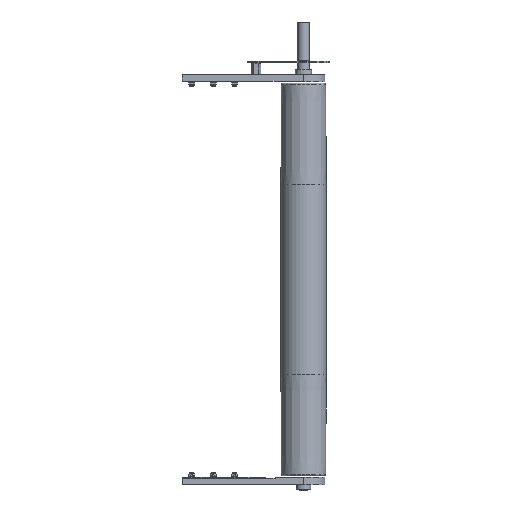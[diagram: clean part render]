
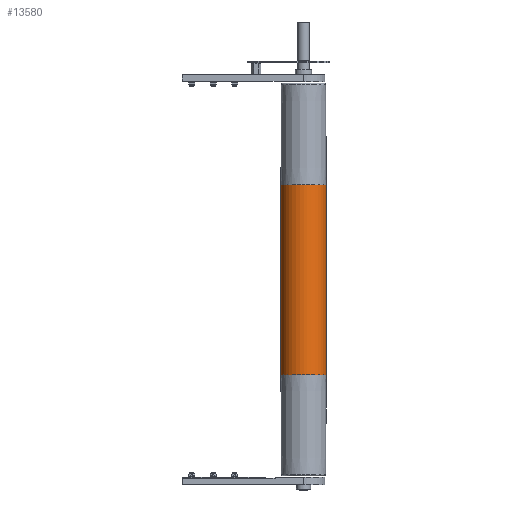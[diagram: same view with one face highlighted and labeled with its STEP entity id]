
A CAD part, front view. The second image highlights one B-rep face of the part: STEP entity #13580.
In plain terms, the highlighted cylindrical face has radius 47.5 mm (diameter 95 mm), a partial arc.
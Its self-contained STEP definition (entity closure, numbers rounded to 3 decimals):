
#430 = CIRCLE ( 'NONE', #6395, 47.5 ) ;
#432 = CIRCLE ( 'NONE', #6394, 47.5 ) ;
#442 = VECTOR ( 'NONE', #7727, 1000. ) ;
#447 = VECTOR ( 'NONE', #7752, 1000. ) ;
#449 = LINE ( 'NONE', #7733, #442 ) ;
#456 = LINE ( 'NONE', #7744, #447 ) ;
#4607 = CYLINDRICAL_SURFACE ( 'NONE', #6884, 47.5 ) ;
#4614 = FACE_OUTER_BOUND ( 'NONE', #15465, .T. ) ;
#6394 = AXIS2_PLACEMENT_3D ( 'NONE', #7687, #7686, #7684 ) ;
#6395 = AXIS2_PLACEMENT_3D ( 'NONE', #7674, #7672, #7670 ) ;
#6568 = CARTESIAN_POINT ( 'NONE',  ( -47.5, 0., 200. ) ) ;
#6884 = AXIS2_PLACEMENT_3D ( 'NONE', #11943, #11944, #11948 ) ;
#7670 = DIRECTION ( 'NONE',  ( 1., 0., 0. ) ) ;
#7672 = DIRECTION ( 'NONE',  ( 0., 0., 1. ) ) ;
#7674 = CARTESIAN_POINT ( 'NONE',  ( 0., 0., -200. ) ) ;
#7684 = DIRECTION ( 'NONE',  ( 1., 0., 0. ) ) ;
#7686 = DIRECTION ( 'NONE',  ( 0., 0., 1. ) ) ;
#7687 = CARTESIAN_POINT ( 'NONE',  ( 0., 0., 200. ) ) ;
#7727 = DIRECTION ( 'NONE',  ( 0., 0., -1. ) ) ;
#7733 = CARTESIAN_POINT ( 'NONE',  ( -47.5, 0., 410. ) ) ;
#7744 = CARTESIAN_POINT ( 'NONE',  ( 47.5, 0., 410. ) ) ;
#7752 = DIRECTION ( 'NONE',  ( 0., 0., -1. ) ) ;
#9230 = EDGE_CURVE ( 'NONE', #10295, #10301, #456, .T. ) ;
#9231 = EDGE_CURVE ( 'NONE', #14544, #10138, #449, .T. ) ;
#9236 = EDGE_CURVE ( 'NONE', #14544, #10295, #432, .T. ) ;
#9237 = EDGE_CURVE ( 'NONE', #10138, #10301, #430, .T. ) ;
#10138 = VERTEX_POINT ( 'NONE', #17830 ) ;
#10295 = VERTEX_POINT ( 'NONE', #17088 ) ;
#10301 = VERTEX_POINT ( 'NONE', #17081 ) ;
#11943 = CARTESIAN_POINT ( 'NONE',  ( 0., 0., 410. ) ) ;
#11944 = DIRECTION ( 'NONE',  ( 0., 0., -1. ) ) ;
#11948 = DIRECTION ( 'NONE',  ( -1., 0., 0. ) ) ;
#13580 = ADVANCED_FACE ( 'NONE', ( #4614 ), #4607, .T. ) ;
#14544 = VERTEX_POINT ( 'NONE', #6568 ) ;
#14726 = ORIENTED_EDGE ( 'NONE', *, *, #9230, .F. ) ;
#14727 = ORIENTED_EDGE ( 'NONE', *, *, #9236, .F. ) ;
#14728 = ORIENTED_EDGE ( 'NONE', *, *, #9231, .T. ) ;
#14729 = ORIENTED_EDGE ( 'NONE', *, *, #9237, .T. ) ;
#15465 = EDGE_LOOP ( 'NONE', ( #14726, #14727, #14728, #14729 ) ) ;
#17081 = CARTESIAN_POINT ( 'NONE',  ( 47.5, 0., -200. ) ) ;
#17088 = CARTESIAN_POINT ( 'NONE',  ( 47.5, 0., 200. ) ) ;
#17830 = CARTESIAN_POINT ( 'NONE',  ( -47.5, 0., -200. ) ) ;
